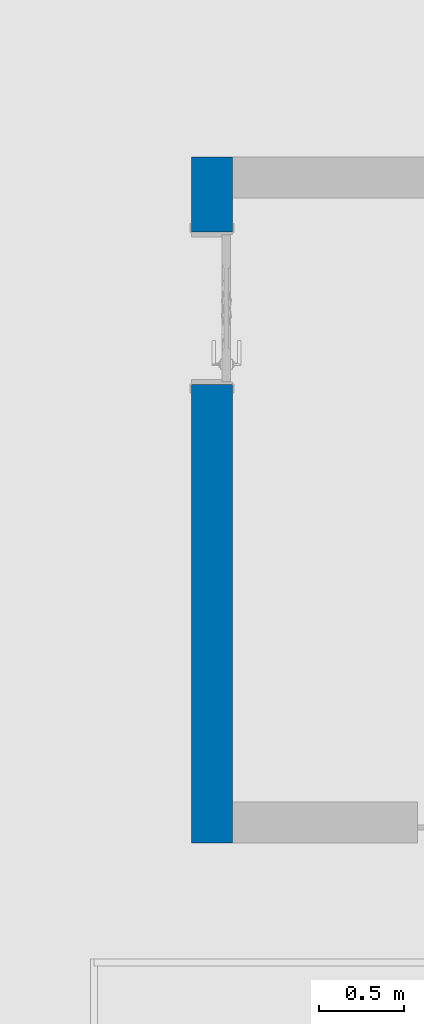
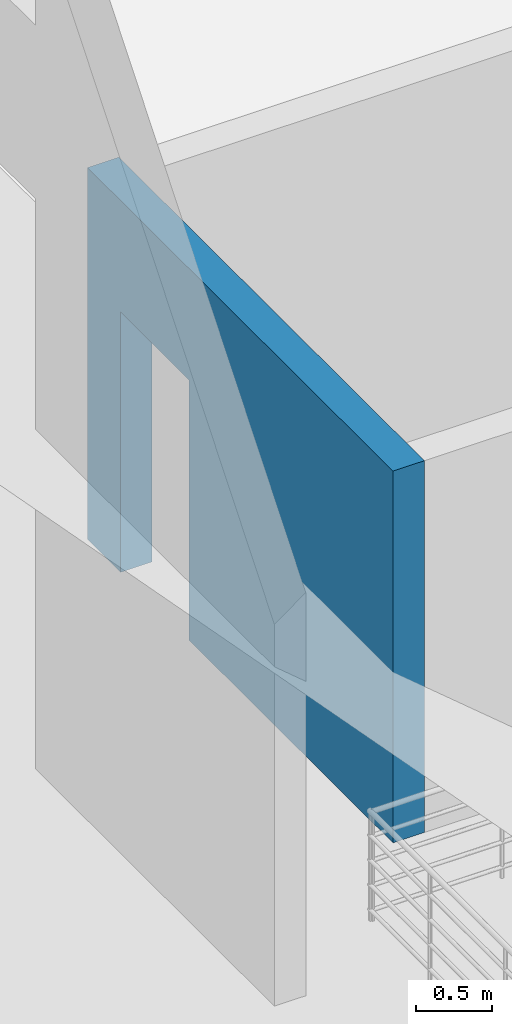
# One storey, part 57 of 82: 1 wall, 1 opening.
"""IFC2X3 building model written with IfcOpenShell, lengths in millimetres."""

from ifc_helpers import new_model, entity, si_unit, converted_unit, derived_unit, direction, frame, frame_2d, origin, place, context, subcontext, project, spatial, rectangle, extrude, material, layer, layer_set, layer_usage, type_object, element, save


model = new_model("IFC2X3")

# Units and contexts
model_context = context("Model", 3, precision=0.01, world=origin(), true_north=direction((6.12303176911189e-17, 1.0)))
body_context = subcontext(model_context, "Body", "Model", "MODEL_VIEW")
ifc_project = project(units=[si_unit("LENGTHUNIT", "METRE", prefix="MILLI"), si_unit("AREAUNIT", "SQUARE_METRE"), si_unit("VOLUMEUNIT", "CUBIC_METRE"), converted_unit("PLANEANGLEUNIT", "DEGREE", entity("IfcRatioMeasure", 0.0174532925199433), si_unit("PLANEANGLEUNIT", "RADIAN"), dimensions=[0, 0, 0, 0, 0, 0, 0]), si_unit("MASSUNIT", "GRAM", prefix="KILO"), derived_unit("MASSDENSITYUNIT", [(si_unit("MASSUNIT", "GRAM", prefix="KILO"), 1), (si_unit("LENGTHUNIT", "METRE"), -3)]), si_unit("TIMEUNIT", "SECOND"), si_unit("FREQUENCYUNIT", "HERTZ"), si_unit("THERMODYNAMICTEMPERATUREUNIT", "DEGREE_CELSIUS"), derived_unit("THERMALTRANSMITTANCEUNIT", [(si_unit("MASSUNIT", "GRAM", prefix="KILO"), 1), (si_unit("THERMODYNAMICTEMPERATUREUNIT", "KELVIN"), -1), (si_unit("TIMEUNIT", "SECOND"), -3)]), derived_unit("VOLUMETRICFLOWRATEUNIT", [(si_unit("LENGTHUNIT", "METRE"), 3), (si_unit("TIMEUNIT", "SECOND"), -1)]), si_unit("ELECTRICCURRENTUNIT", "AMPERE"), si_unit("ELECTRICVOLTAGEUNIT", "VOLT"), si_unit("POWERUNIT", "WATT"), si_unit("FORCEUNIT", "NEWTON", prefix="KILO"), si_unit("ILLUMINANCEUNIT", "LUX"), si_unit("LUMINOUSFLUXUNIT", "LUMEN"), si_unit("LUMINOUSINTENSITYUNIT", "CANDELA"), derived_unit("USERDEFINED", [(si_unit("MASSUNIT", "GRAM", prefix="KILO"), -1), (si_unit("LENGTHUNIT", "METRE"), -2), (si_unit("TIMEUNIT", "SECOND"), 3), (si_unit("LUMINOUSFLUXUNIT", "LUMEN"), 1)]), derived_unit("LINEARVELOCITYUNIT", [(si_unit("LENGTHUNIT", "METRE"), 1), (si_unit("TIMEUNIT", "SECOND"), -1)]), si_unit("PRESSUREUNIT", "PASCAL"), derived_unit("USERDEFINED", [(si_unit("LENGTHUNIT", "METRE"), -2), (si_unit("MASSUNIT", "GRAM", prefix="KILO"), 1), (si_unit("TIMEUNIT", "SECOND"), -2)])], contexts=[model_context])

# Site, building, storey
site_placement = place(None, origin())
site = spatial("IfcSite", under=ifc_project, at=site_placement, Name="表面", CompositionType="ELEMENT")
building_placement = place(site_placement, origin())
building = spatial("IfcBuilding", under=site, at=building_placement, CompositionType="ELEMENT")
storey_placement = place(building_placement, origin())
storey = spatial("IfcBuildingStorey", under=building, at=storey_placement, Name="1F", CompositionType="ELEMENT", Elevation=0.0)

# Wall, opening
ifc_material_1 = material(Name="白色涂料")
ifc_layer_1 = layer(ifc_material_1, 10.0)
ifc_material_2 = material(Name="默认墙")
ifc_layer_2 = layer(ifc_material_2, 220.0)
ifc_layer_3 = layer(ifc_material_1, 10.0)
ifc_layer_set = layer_set([ifc_layer_1, ifc_layer_2, ifc_layer_3], Name="基本墙:粉刷墙240")
ifc_layer_usage = layer_usage(ifc_layer_set, "AXIS2", "POSITIVE", -120.0)
wall_type = type_object("IfcWallType", Name="基本墙:粉刷墙240", PredefinedType="STANDARD", material=ifc_layer_set)
wall_placement = place(storey_placement, frame((-2010.24991264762, -10387.8459129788, 0.0), z_axis=(0.0, 0.0, 1.0), x_axis=(0.0, -1.0, 0.0)))
wall = element("IfcWallStandardCase", 1, at=wall_placement, inside=storey, type_object=wall_type, material=ifc_layer_usage, Name="基本墙:粉刷墙240", ObjectType="基本墙:粉刷墙240", context=body_context, shape_type="SweptSolid", body=[
    extrude(rectangle(XDim=4040.0, YDim=240.0, at=frame_2d((2020.0, -7.105427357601e-14), x_axis=(-1.0, 0.0))), origin(), (0.0, 0.0, 1.0), 3000.00000000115),
])
opening_placement = place(wall_placement, frame((440.0, -120.0, 0.0)))
element("IfcOpeningElement", 2, at=opening_placement, cuts=wall, Name="装饰木门:M0921:1", ObjectType="Opening", context=body_context, shape_type="SweptSolid", body=[
    extrude(rectangle(XDim=2099.99999999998, YDim=900.0, at=frame_2d((1049.99999999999, 450.0), x_axis=(1.0, 0.0))), frame((0.0, 0.0, 0.0), z_axis=(0.0, 1.0, 0.0), x_axis=(0.0, 0.0, 1.0)), (0.0, 0.0, 1.0), 240.0),
])

save(model, "model.ifc")
